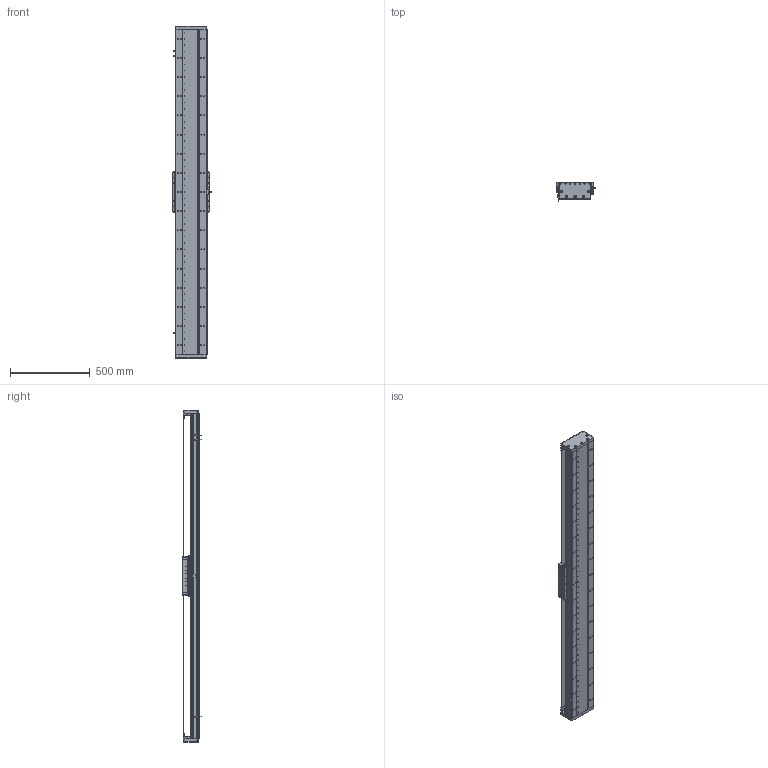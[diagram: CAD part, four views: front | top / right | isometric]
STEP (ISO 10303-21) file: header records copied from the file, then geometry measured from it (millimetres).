
FILE_DESCRIPTION (( 'STEP AP203' ), '1' );
FILE_NAME ('DA-C195-C3-T1740-C010-0.2 眻盄萇儂.STEP', '2025-08-15T01:36:36', ( '' ), ( '' ), 'SwSTEP 2.0', 'SolidWorks 2019', '' );
FILE_SCHEMA (( 'CONFIG_CONTROL_DESIGN' ));
Length unit declared in the file: millimetre
Products named in the file (15): DA165-GYP-00 光电感应片(默认); CU195-C3賑輸-俋楷; DA195詩湍裔啣; 葩璃 DA95-GT-T-00; IU-CU195-L 菁釱絳寢; IU-CU195-L-00 菁釱(L2040); DA195詩湍郪璃; DA95-HXJ-00 遣喳砎蝶; PM-T45ㄗ侂狟ㄘ; DA-C195-C3-T1740-C010-0.2 眻盄萇儂; DA-C195-GD-DB-H-00 傷啣; DA195詩湍嶺輸; LMT黍杅芛; DA195詩湍菜輸; MS200 棠掑喜S315-T240
Assembly tree (29 placements, depth 3):
  DA-C195-C3-T1740-C010-0.2 眻盄萇儂
    DA195詩湍郪璃
      DA195詩湍菜輸  x2
      DA195詩湍裔啣
      DA195詩湍嶺輸  x2
      DA95-HXJ-00 遣喳砎蝶  x8
      DA-C195-GD-DB-H-00 傷啣  x2
    IU-CU195-L 菁釱絳寢
      IU-CU195-L-00 菁釱(L2040)
      葩璃 DA95-GT-T-00  x4
    LMT黍杅芛
    MS200 棠掑喜S315-T240
    PM-T45ㄗ侂狟ㄘ  x3
    DA165-GYP-00 光电感应片(默认)
    CU195-C3賑輸-俋楷
Bounding box: 248 x 115.45 x 2080 mm (x, y, z)
Volume: 12713606.8 mm3; surface area: 3689477 mm2
Topology: 86 solids, 118 shells, 4094 faces, 11271 edges, 7073 vertices
Faces by surface type: cylinder 2138, plane 1354, cone 514, torus 52, sphere 36
Entity records: 127067 total; most frequent: CARTESIAN_POINT 32792, ORIENTED_EDGE 19458, DIRECTION 19142, EDGE_CURVE 9729, AXIS2_PLACEMENT_3D 7177, VERTEX_POINT 6275, VECTOR 4788, LINE 4788
